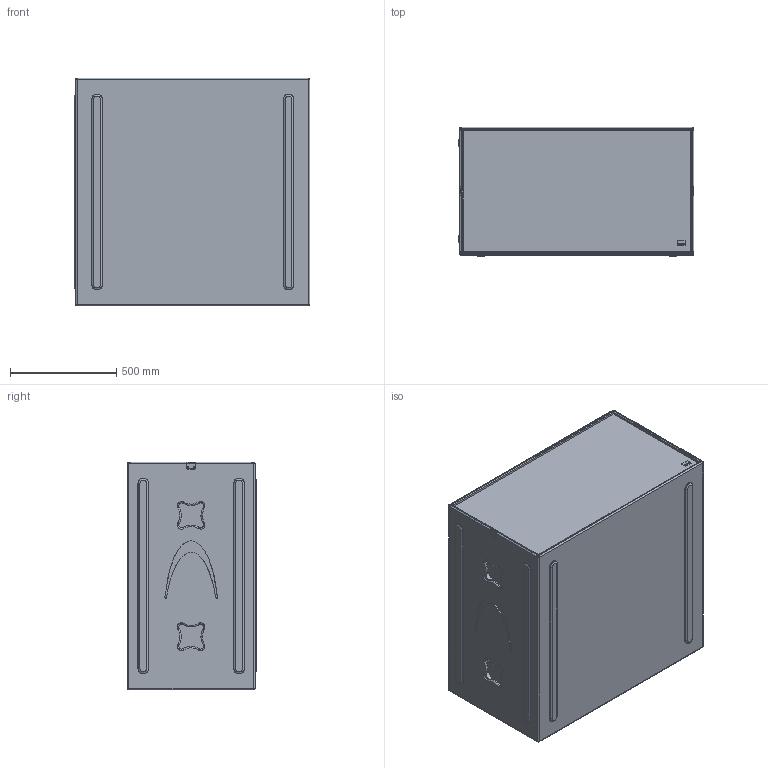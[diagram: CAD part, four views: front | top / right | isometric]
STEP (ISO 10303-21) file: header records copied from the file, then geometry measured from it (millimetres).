
FILE_DESCRIPTION (( 'STEP AP203' ), '1' );
FILE_NAME ('Seeburg_GaleoXT-Sub.STEP', '2012-10-17T09:25:47', ( 'Fabian' ), ( '' ), 'SwSTEP 2.0', 'SolidWorks 2009', '' );
FILE_SCHEMA (( 'CONFIG_CONTROL_DESIGN' ));
Length unit declared in the file: millimetre
Products named in the file (2): GALEO_XT_Sub; Seeburg_GaleoXT-Sub
Assembly tree (1 placements, depth 2):
  Seeburg_GaleoXT-Sub
    GALEO_XT_Sub
Bounding box: 1108 x 608 x 1070 mm (x, y, z)
Volume: 69515116.7 mm3; surface area: 10467418.4 mm2
Topology: 18 solids, 18 shells, 713 faces, 1793 edges, 1128 vertices
Faces by surface type: cylinder 274, plane 235, torus 164, cone 25, sphere 11, bspline 4
Entity records: 27595 total; most frequent: CARTESIAN_POINT 10423, DIRECTION 3638, ORIENTED_EDGE 3558, EDGE_CURVE 1779, AXIS2_PLACEMENT_3D 1422, VERTEX_POINT 1120, VECTOR 794, LINE 794
